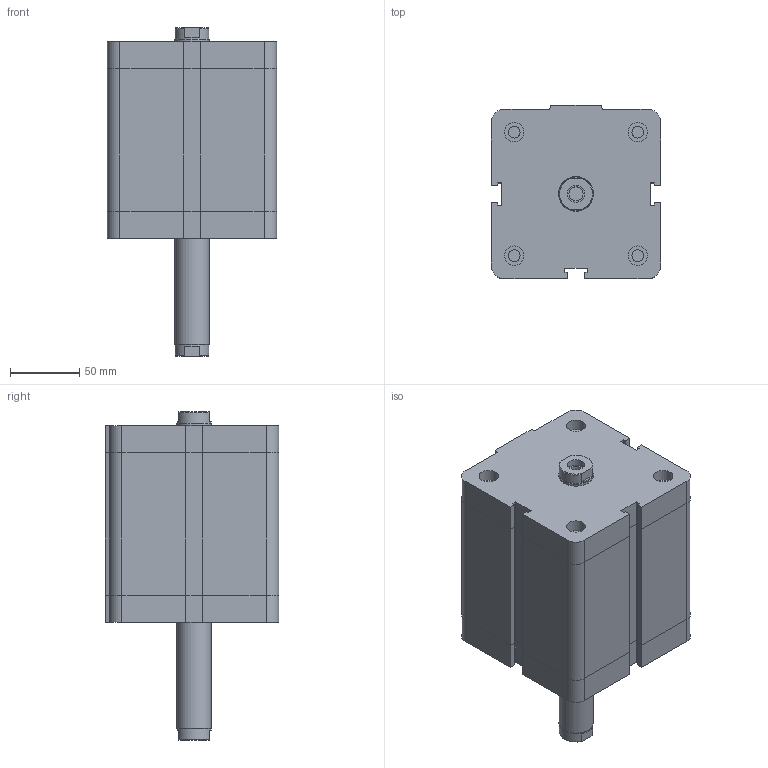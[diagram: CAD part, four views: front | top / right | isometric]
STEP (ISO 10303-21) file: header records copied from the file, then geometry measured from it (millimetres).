
FILE_DESCRIPTION((''),'2;1');
FILE_NAME('I:\Area Tecnica\Disegni\VARIE-3D\Componenti\EUROPE\15##_###_####_03_#\1561_100_0075_03_1.iam.stp','2009-04-20T14:34:44',(''),(''),'Autodesk Inventor 2009','Autodesk Inventor 2009','');
FILE_SCHEMA(('AUTOMOTIVE_DESIGN { 1 0 10303 214 1 1 1 1 }'));
Length unit declared in the file: millimetre
Products named in the file (3): 1561_100_0075_03_1; 1561_100_0075_03_1_C; 1561_100_0075_03_1_S
Assembly tree (2 placements, depth 2):
  1561_100_0075_03_1
    1561_100_0075_03_1_C
    1561_100_0075_03_1_S
Bounding box: 122 x 125 x 236.5 mm (x, y, z)
Volume: 2091779.7 mm3; surface area: 144545.6 mm2
Topology: 2 solids, 2 shells, 174 faces, 379 edges, 231 vertices
Faces by surface type: plane 114, bspline 29, cylinder 25, cone 6
Full cylindrical faces by diameter (mm): 8.376 x4, 10.106 x1, 12.3 x1, 14 x4, 24.5 x2, 25 x1
Entity records: 4758 total; most frequent: CARTESIAN_POINT 1020, DIRECTION 708, ORIENTED_EDGE 676, EDGE_CURVE 338, VECTOR 252, LINE 252, AXIS2_PLACEMENT_3D 228, EDGE_LOOP 226
